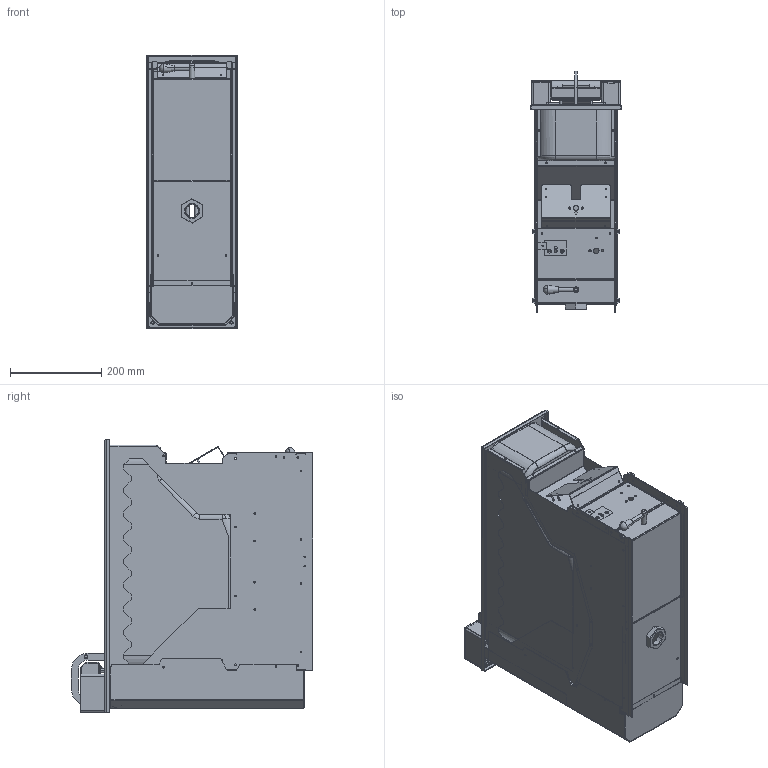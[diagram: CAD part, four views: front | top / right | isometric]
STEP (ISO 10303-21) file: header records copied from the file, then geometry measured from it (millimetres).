
FILE_DESCRIPTION (( 'STEP AP203' ), '1' );
FILE_NAME ('8500-E.STEP', '2025-04-20T07:09:29', ( '' ), ( '' ), 'SwSTEP 2.0', 'SolidWorks 2024', '' );
FILE_SCHEMA (( 'CONFIG_CONTROL_DESIGN' ));
Products named in the file (1): 8500-E
Bounding box: 199 x 529.54 x 600 mm (x, y, z)
Volume: 2355031.6 mm3; surface area: 3271092.7 mm2
Topology: 74 solids, 74 shells, 3684 faces, 9175 edges, 5663 vertices
Faces by surface type: plane 1998, cylinder 1401, torus 138, cone 80, bspline 57, sphere 10
Entity records: 112458 total; most frequent: CARTESIAN_POINT 22596, DIRECTION 19266, ORIENTED_EDGE 18314, EDGE_CURVE 9157, AXIS2_PLACEMENT_3D 6775, LINE 5716, VECTOR 5716, VERTEX_POINT 5663
